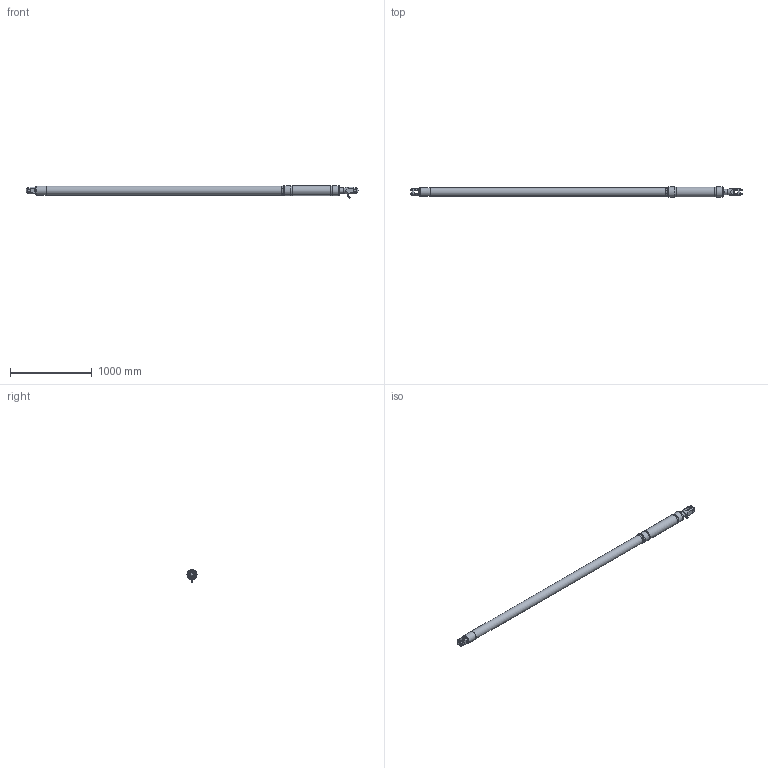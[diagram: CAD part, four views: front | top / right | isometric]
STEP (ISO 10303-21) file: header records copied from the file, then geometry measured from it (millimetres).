
FILE_DESCRIPTION(/* description */ (''),/* implementation_level */ '2;1');
FILE_NAME(/* name */ 'Q:\AA BRAND HYDRAULICS\HYDRAULICS FAMILY DIRECTORY\HYDRAULICS\CYLINDERS\VANGS\ALUMINIUM SINGLE ACTING - STAINLESS ON REQUEST (-0010 To -0150)\VSA-0076-S425-NP-71-L4000\VSA-0076-S425-NP-71-L4000 (Closed).stp',/* time_stamp */ '2018-04-03T11:19:26+01:00',/* author */ ('Lorena'),/* organization */ (''),/* preprocessor_version */ 'ST-DEVELOPER v17',/* originating_system */ 'Autodesk Inventor 2018',/* authorisation */ '');
FILE_SCHEMA (('AUTOMOTIVE_DESIGN { 1 0 10303 214 3 1 1 }'));
Length unit declared in the file: millimetre
Products named in the file (1): VSA-0076-S425-NP-71-L4000 (Closed)
Bounding box: 4073.5 x 123.6 x 157.11 mm (x, y, z)
Volume: 37144690.6 mm3; surface area: 1441593.6 mm2
Topology: 2 solids, 4 shells, 1694 faces, 4545 edges, 3012 vertices
Faces by surface type: plane 962, bspline 578, cylinder 91, cone 55, torus 4, sphere 4
Full cylindrical faces by diameter (mm): 5 x7, 7.5 x1, 8.1 x1, 10 x2, 11 x3, 12 x1, 14 x1, 14.35 x1, 14.662 x1, 15 x3, 15.662 x1, 16.662 x2, 18 x2, 20 x2, 21.4 x3, 27 x1, 28 x1, 31.75 x2, 39.688 x2, 45 x1, 47 x1, 65 x1, 103.5 x1, 104 x1, 108 x2, 119 x1, 120.6 x1, 123.6 x4
Entity records: 61552 total; most frequent: CARTESIAN_POINT 21219, ORIENTED_EDGE 9086, DIRECTION 5888, EDGE_CURVE 4543, VERTEX_POINT 3016, LINE 2902, VECTOR 2902, EDGE_LOOP 1865
